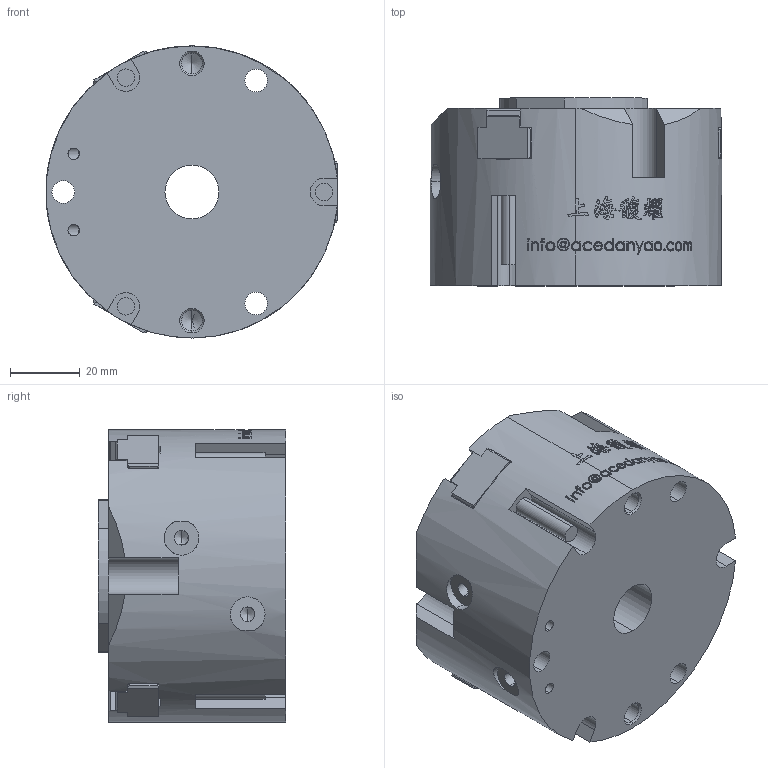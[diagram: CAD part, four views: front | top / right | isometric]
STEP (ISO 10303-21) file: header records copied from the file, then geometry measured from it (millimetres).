
FILE_DESCRIPTION (( 'STEP AP203' ), '1' );
FILE_NAME ('MFB85-原始檔-組合-W104.04.14.STEP', '2017-04-14T08:21:03', ( 'DanyaoCAD' ), ( '' ), 'SwSTEP 2.0', 'SolidWorks 2016', '' );
FILE_SCHEMA (( 'CONFIG_CONTROL_DESIGN' ));
Length unit declared in the file: millimetre
Products named in the file (4): Coperchio; Griffa; Corpo; MFB85-原始檔-組合-W104.04.14
Assembly tree (5 placements, depth 2):
  MFB85-原始檔-組合-W104.04.14
    Coperchio
    Griffa  x3
    Corpo
Bounding box: 83.96 x 54 x 84 mm (x, y, z)
Volume: 254576.7 mm3; surface area: 46786.3 mm2
Topology: 5 solids, 5 shells, 1084 faces, 3009 edges, 1976 vertices
Faces by surface type: bspline 665, plane 260, cylinder 129, cone 30
Entity records: 88972 total; most frequent: CARTESIAN_POINT 68902, ORIENTED_EDGE 5546, EDGE_CURVE 2773, B_SPLINE_CURVE_WITH_KNOTS 2067, VERTEX_POINT 1840, DIRECTION 1579, EDGE_LOOP 1063, FACE_OUTER_BOUND 994
